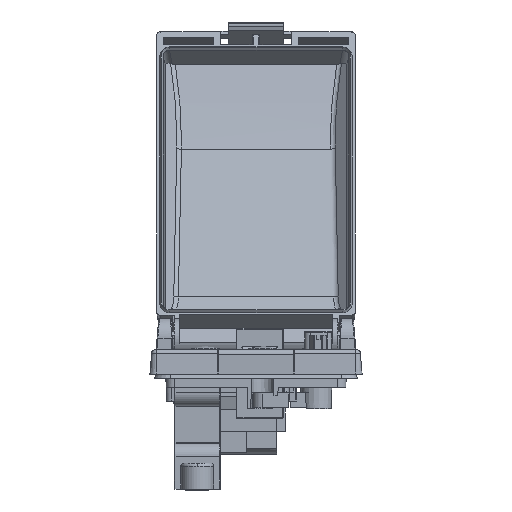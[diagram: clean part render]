
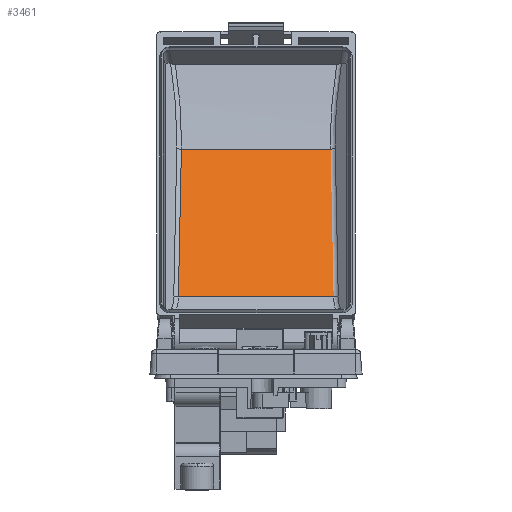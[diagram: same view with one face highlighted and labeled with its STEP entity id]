
A CAD part, left-side view. The second image highlights one B-rep face of the part: STEP entity #3461.
In plain terms, the highlighted planar face has unit normal (-0.865, 0, 0.502).
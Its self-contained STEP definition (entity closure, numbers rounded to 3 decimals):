
#2483 = VERTEX_POINT ( 'NONE', #33350 ) ;
#3461 = ADVANCED_FACE ( 'NONE', ( #42584 ), #43049, .F. ) ;
#4469 = LINE ( 'NONE', #7052, #78465 ) ;
#5996 = EDGE_CURVE ( 'NONE', #10628, #51155, #74032, .T. ) ;
#7052 = CARTESIAN_POINT ( 'NONE',  ( 97.905, 189.435, 61.35 ) ) ;
#9108 = CARTESIAN_POINT ( 'NONE',  ( 97.905, 189.435, 61.35 ) ) ;
#10628 = VERTEX_POINT ( 'NONE', #35836 ) ;
#13626 = EDGE_CURVE ( 'NONE', #10628, #29432, #28547, .T. ) ;
#17137 = ORIENTED_EDGE ( 'NONE', *, *, #5996, .T. ) ;
#20219 = ORIENTED_EDGE ( 'NONE', *, *, #50263, .F. ) ;
#22463 = ORIENTED_EDGE ( 'NONE', *, *, #43368, .T. ) ;
#26577 = CARTESIAN_POINT ( 'NONE',  ( 71.612, 189.435, 16.093 ) ) ;
#27107 = CARTESIAN_POINT ( 'NONE',  ( 97.905, 196.988, 61.35 ) ) ;
#27244 = EDGE_LOOP ( 'NONE', ( #20219, #38709, #17137, #22463 ) ) ;
#28547 = LINE ( 'NONE', #26577, #55487 ) ;
#29432 = VERTEX_POINT ( 'NONE', #45759 ) ;
#33350 = CARTESIAN_POINT ( 'NONE',  ( 97.905, 242.682, 61.35 ) ) ;
#35836 = CARTESIAN_POINT ( 'NONE',  ( 71.612, 196.074, 16.093 ) ) ;
#36365 = CARTESIAN_POINT ( 'NONE',  ( 89.141, 196.683, 46.264 ) ) ;
#38137 = CARTESIAN_POINT ( 'NONE',  ( 80.377, 196.379, 31.179 ) ) ;
#38709 = ORIENTED_EDGE ( 'NONE', *, *, #13626, .F. ) ;
#42584 = FACE_OUTER_BOUND ( 'NONE', #27244, .T. ) ;
#43049 = PLANE ( 'NONE',  #85395 ) ;
#43368 = EDGE_CURVE ( 'NONE', #51155, #2483, #4469, .T. ) ;
#44773 = CARTESIAN_POINT ( 'NONE',  ( 71.612, 196.074, 16.093 ) ) ;
#44814 = DIRECTION ( 'NONE',  ( 0.502, -0.017, 0.865 ) ) ;
#45759 = CARTESIAN_POINT ( 'NONE',  ( 71.612, 243.595, 16.093 ) ) ;
#50263 = EDGE_CURVE ( 'NONE', #29432, #2483, #58415, .T. ) ;
#51155 = VERTEX_POINT ( 'NONE', #27107 ) ;
#55487 = VECTOR ( 'NONE', #60536, 1000. ) ;
#56887 = DIRECTION ( 'NONE',  ( -0.502, 0., -0.865 ) ) ;
#58415 = LINE ( 'NONE', #78959, #60516 ) ;
#60516 = VECTOR ( 'NONE', #44814, 1000. ) ;
#60536 = DIRECTION ( 'NONE',  ( 0., 1., 0. ) ) ;
#71447 = CARTESIAN_POINT ( 'NONE',  ( 97.905, 196.988, 61.35 ) ) ;
#74032 = B_SPLINE_CURVE_WITH_KNOTS ( 'NONE', 3,
 ( #44773, #38137, #36365, #71447 ),
 .UNSPECIFIED., .F., .F.,
 ( 4, 4 ),
 ( 0., 1. ),
 .UNSPECIFIED. ) ;
#78465 = VECTOR ( 'NONE', #82977, 1000. ) ;
#78959 = CARTESIAN_POINT ( 'NONE',  ( 71.612, 243.595, 16.093 ) ) ;
#82977 = DIRECTION ( 'NONE',  ( 0., 1., 0. ) ) ;
#84440 = DIRECTION ( 'NONE',  ( 0.865, 0., -0.502 ) ) ;
#85395 = AXIS2_PLACEMENT_3D ( 'NONE', #9108, #84440, #56887 ) ;
